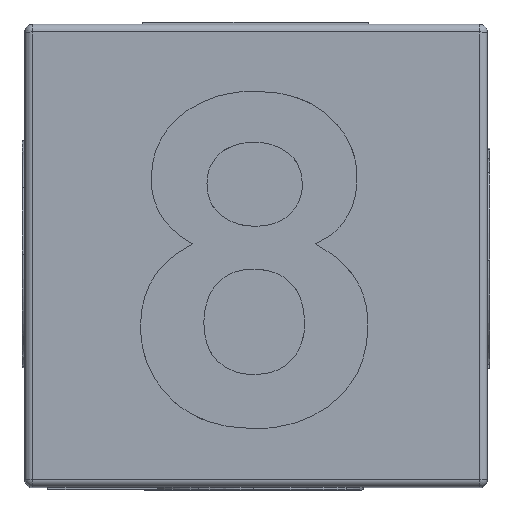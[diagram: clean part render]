
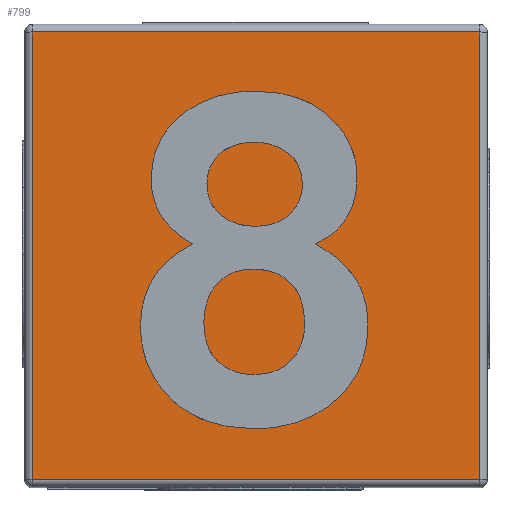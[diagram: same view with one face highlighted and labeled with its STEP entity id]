
A CAD part, top view. The second image highlights one B-rep face of the part: STEP entity #799.
In plain terms, the highlighted planar face has unit normal (0, 0, 1).
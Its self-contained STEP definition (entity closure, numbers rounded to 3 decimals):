
#222 = CYLINDRICAL_SURFACE('',#223,0.5);
#223 = AXIS2_PLACEMENT_3D('',#224,#225,#226);
#224 = CARTESIAN_POINT('',(-14.35,-14.85,14.35));
#225 = DIRECTION('',(0.,1.,0.));
#226 = DIRECTION('',(-1.,0.,0.));
#405 = VERTEX_POINT('',#406);
#406 = CARTESIAN_POINT('',(-14.35,-14.35,14.85));
#426 = EDGE_CURVE('',#405,#427,#429,.T.);
#427 = VERTEX_POINT('',#428);
#428 = CARTESIAN_POINT('',(-14.35,14.35,14.85));
#429 = SURFACE_CURVE('',#430,(#434,#441),.PCURVE_S1.);
#430 = LINE('',#431,#432);
#431 = CARTESIAN_POINT('',(-14.35,-14.85,14.85));
#432 = VECTOR('',#433,1.);
#433 = DIRECTION('',(0.,1.,0.));
#434 = PCURVE('',#222,#435);
#435 = DEFINITIONAL_REPRESENTATION('',(#436),#440);
#436 = LINE('',#437,#438);
#437 = CARTESIAN_POINT('',(1.571,0.));
#438 = VECTOR('',#439,1.);
#439 = DIRECTION('',(0.,1.));
#440 = ( GEOMETRIC_REPRESENTATION_CONTEXT(2) 
PARAMETRIC_REPRESENTATION_CONTEXT() REPRESENTATION_CONTEXT('2D SPACE',''
  ) );
#441 = PCURVE('',#442,#447);
#442 = PLANE('',#443);
#443 = AXIS2_PLACEMENT_3D('',#444,#445,#446);
#444 = CARTESIAN_POINT('',(-14.85,-14.85,14.85));
#445 = DIRECTION('',(0.,0.,1.));
#446 = DIRECTION('',(1.,0.,0.));
#447 = DEFINITIONAL_REPRESENTATION('',(#448),#452);
#448 = LINE('',#449,#450);
#449 = CARTESIAN_POINT('',(0.5,0.));
#450 = VECTOR('',#451,1.);
#451 = DIRECTION('',(0.,1.));
#452 = ( GEOMETRIC_REPRESENTATION_CONTEXT(2) 
PARAMETRIC_REPRESENTATION_CONTEXT() REPRESENTATION_CONTEXT('2D SPACE',''
  ) );
#606 = CYLINDRICAL_SURFACE('',#607,0.5);
#607 = AXIS2_PLACEMENT_3D('',#608,#609,#610);
#608 = CARTESIAN_POINT('',(-14.85,-14.35,14.35));
#609 = DIRECTION('',(1.,0.,0.));
#610 = DIRECTION('',(0.,-1.,0.));
#799 = ADVANCED_FACE('',(#800),#442,.T.);
#800 = FACE_BOUND('',#801,.T.);
#801 = EDGE_LOOP('',(#802,#803,#826,#854));
#802 = ORIENTED_EDGE('',*,*,#426,.F.);
#803 = ORIENTED_EDGE('',*,*,#804,.T.);
#804 = EDGE_CURVE('',#405,#805,#807,.T.);
#805 = VERTEX_POINT('',#806);
#806 = CARTESIAN_POINT('',(14.35,-14.35,14.85));
#807 = SURFACE_CURVE('',#808,(#812,#819),.PCURVE_S1.);
#808 = LINE('',#809,#810);
#809 = CARTESIAN_POINT('',(-14.85,-14.35,14.85));
#810 = VECTOR('',#811,1.);
#811 = DIRECTION('',(1.,0.,0.));
#812 = PCURVE('',#442,#813);
#813 = DEFINITIONAL_REPRESENTATION('',(#814),#818);
#814 = LINE('',#815,#816);
#815 = CARTESIAN_POINT('',(0.,0.5));
#816 = VECTOR('',#817,1.);
#817 = DIRECTION('',(1.,0.));
#818 = ( GEOMETRIC_REPRESENTATION_CONTEXT(2) 
PARAMETRIC_REPRESENTATION_CONTEXT() REPRESENTATION_CONTEXT('2D SPACE',''
  ) );
#819 = PCURVE('',#606,#820);
#820 = DEFINITIONAL_REPRESENTATION('',(#821),#825);
#821 = LINE('',#822,#823);
#822 = CARTESIAN_POINT('',(-1.571,0.));
#823 = VECTOR('',#824,1.);
#824 = DIRECTION('',(-0.,1.));
#825 = ( GEOMETRIC_REPRESENTATION_CONTEXT(2) 
PARAMETRIC_REPRESENTATION_CONTEXT() REPRESENTATION_CONTEXT('2D SPACE',''
  ) );
#826 = ORIENTED_EDGE('',*,*,#827,.T.);
#827 = EDGE_CURVE('',#805,#828,#830,.T.);
#828 = VERTEX_POINT('',#829);
#829 = CARTESIAN_POINT('',(14.35,14.35,14.85));
#830 = SURFACE_CURVE('',#831,(#835,#842),.PCURVE_S1.);
#831 = LINE('',#832,#833);
#832 = CARTESIAN_POINT('',(14.35,-14.85,14.85));
#833 = VECTOR('',#834,1.);
#834 = DIRECTION('',(0.,1.,0.));
#835 = PCURVE('',#442,#836);
#836 = DEFINITIONAL_REPRESENTATION('',(#837),#841);
#837 = LINE('',#838,#839);
#838 = CARTESIAN_POINT('',(29.2,0.));
#839 = VECTOR('',#840,1.);
#840 = DIRECTION('',(0.,1.));
#841 = ( GEOMETRIC_REPRESENTATION_CONTEXT(2) 
PARAMETRIC_REPRESENTATION_CONTEXT() REPRESENTATION_CONTEXT('2D SPACE',''
  ) );
#842 = PCURVE('',#843,#848);
#843 = CYLINDRICAL_SURFACE('',#844,0.5);
#844 = AXIS2_PLACEMENT_3D('',#845,#846,#847);
#845 = CARTESIAN_POINT('',(14.35,-14.85,14.35));
#846 = DIRECTION('',(0.,1.,0.));
#847 = DIRECTION('',(1.,0.,-0.));
#848 = DEFINITIONAL_REPRESENTATION('',(#849),#853);
#849 = LINE('',#850,#851);
#850 = CARTESIAN_POINT('',(-1.571,0.));
#851 = VECTOR('',#852,1.);
#852 = DIRECTION('',(-0.,1.));
#853 = ( GEOMETRIC_REPRESENTATION_CONTEXT(2) 
PARAMETRIC_REPRESENTATION_CONTEXT() REPRESENTATION_CONTEXT('2D SPACE',''
  ) );
#854 = ORIENTED_EDGE('',*,*,#855,.F.);
#855 = EDGE_CURVE('',#427,#828,#856,.T.);
#856 = SURFACE_CURVE('',#857,(#861,#868),.PCURVE_S1.);
#857 = LINE('',#858,#859);
#858 = CARTESIAN_POINT('',(-14.85,14.35,14.85));
#859 = VECTOR('',#860,1.);
#860 = DIRECTION('',(1.,0.,0.));
#861 = PCURVE('',#442,#862);
#862 = DEFINITIONAL_REPRESENTATION('',(#863),#867);
#863 = LINE('',#864,#865);
#864 = CARTESIAN_POINT('',(0.,29.2));
#865 = VECTOR('',#866,1.);
#866 = DIRECTION('',(1.,0.));
#867 = ( GEOMETRIC_REPRESENTATION_CONTEXT(2) 
PARAMETRIC_REPRESENTATION_CONTEXT() REPRESENTATION_CONTEXT('2D SPACE',''
  ) );
#868 = PCURVE('',#869,#874);
#869 = CYLINDRICAL_SURFACE('',#870,0.5);
#870 = AXIS2_PLACEMENT_3D('',#871,#872,#873);
#871 = CARTESIAN_POINT('',(-14.85,14.35,14.35));
#872 = DIRECTION('',(1.,0.,0.));
#873 = DIRECTION('',(-0.,1.,0.));
#874 = DEFINITIONAL_REPRESENTATION('',(#875),#879);
#875 = LINE('',#876,#877);
#876 = CARTESIAN_POINT('',(1.571,0.));
#877 = VECTOR('',#878,1.);
#878 = DIRECTION('',(0.,1.));
#879 = ( GEOMETRIC_REPRESENTATION_CONTEXT(2) 
PARAMETRIC_REPRESENTATION_CONTEXT() REPRESENTATION_CONTEXT('2D SPACE',''
  ) );
